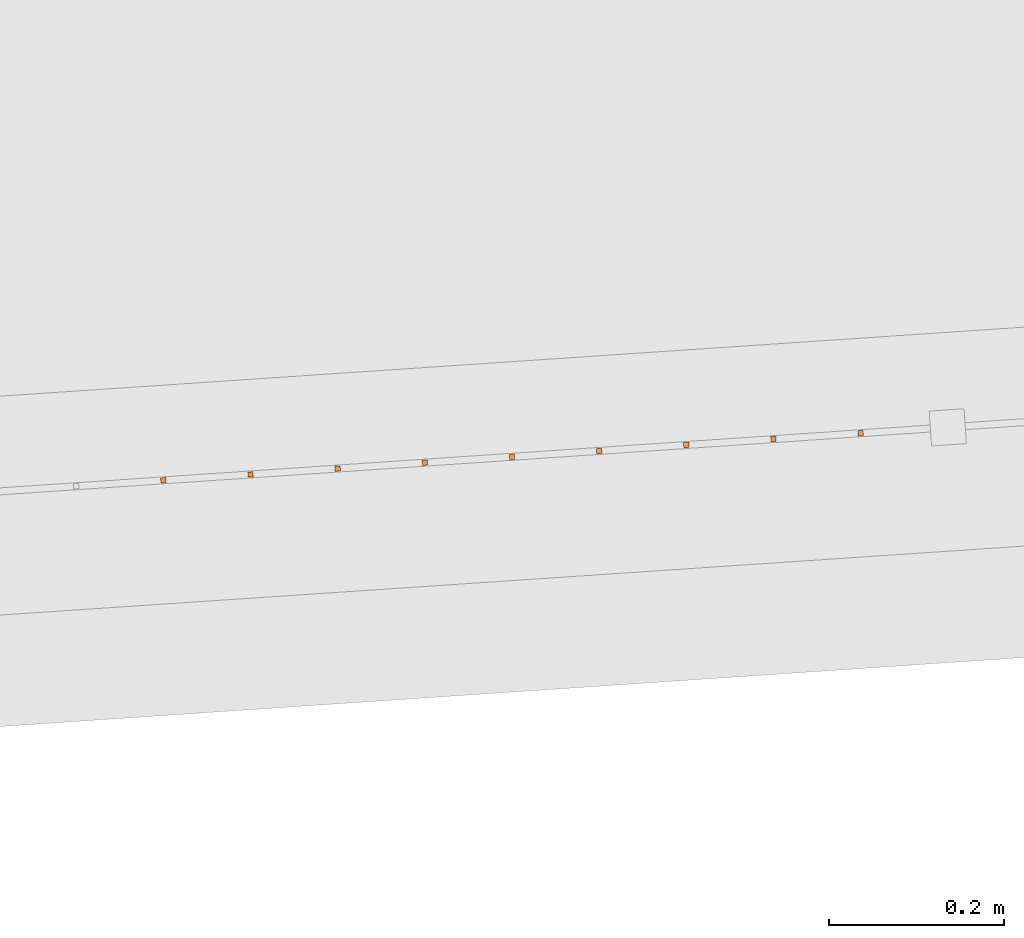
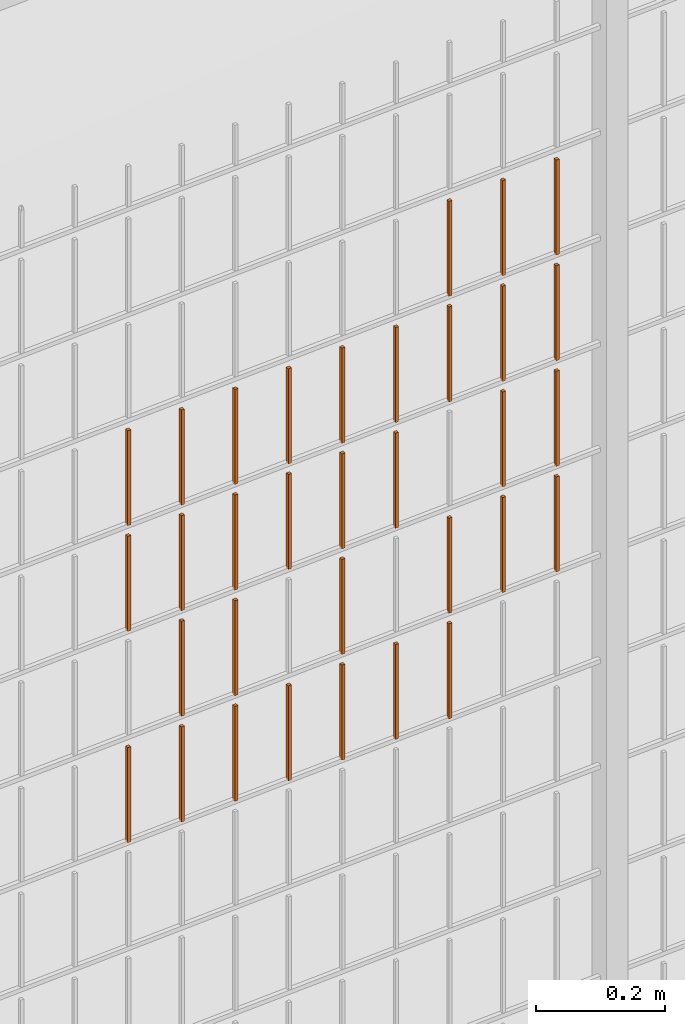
# One storey, part 275 of 1809: 33 proxies, 1 element without a shape of its own.
"""IFC2X3 building model written with IfcOpenShell, lengths in millimetres."""

from ifc_helpers import new_model, entity, si_unit, converted_unit, derived_unit, money_unit, direction, frame, origin_with_axes, place, context, subcontext, project, spatial, faceted_brep, source, transform, mapped, material, type_object, element, aggregate, save


model = new_model("IFC2X3")

# Units and contexts
model_context = context("Model", 3, precision=0.01, world=origin_with_axes(), true_north=direction((0.0, 1.0)))
body_context = subcontext(model_context, "Body", "Model", "MODEL_VIEW")
ifc_project = project(units=[si_unit("LENGTHUNIT", "METRE", prefix="MILLI"), si_unit("AREAUNIT", "SQUARE_METRE"), si_unit("VOLUMEUNIT", "CUBIC_METRE"), converted_unit("PLANEANGLEUNIT", "DEGREE", entity("IfcPlaneAngleMeasure", 0.0174532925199), si_unit("PLANEANGLEUNIT", "RADIAN"), dimensions=[0, 0, 0, 0, 0, 0, 0]), si_unit("SOLIDANGLEUNIT", "STERADIAN"), money_unit("EUR"), converted_unit("TIMEUNIT", "Year", entity("IfcTimeMeasure", 31556926.0), si_unit("TIMEUNIT", "SECOND"), dimensions=[0, 0, 1, 0, 0, 0, 0]), si_unit("MASSUNIT", "GRAM", prefix="KILO"), si_unit("THERMODYNAMICTEMPERATUREUNIT", "DEGREE_CELSIUS"), si_unit("LUMINOUSINTENSITYUNIT", "LUMEN"), si_unit("ENERGYUNIT", "JOULE", prefix="MEGA"), derived_unit("THERMALCONDUCTANCEUNIT", [(si_unit("POWERUNIT", "WATT"), 1), (si_unit("LENGTHUNIT", "METRE"), -1), (si_unit("THERMODYNAMICTEMPERATUREUNIT", "KELVIN"), -1)]), derived_unit("SPECIFICHEATCAPACITYUNIT", [(si_unit("ENERGYUNIT", "JOULE"), 1), (si_unit("MASSUNIT", "GRAM", prefix="KILO"), -1), (si_unit("THERMODYNAMICTEMPERATUREUNIT", "KELVIN"), -1)]), derived_unit("MASSDENSITYUNIT", [(si_unit("MASSUNIT", "GRAM", prefix="KILO"), 1), (si_unit("VOLUMEUNIT", "CUBIC_METRE"), -1)])], contexts=[model_context])

# Site, building, storey
site_placement = place(None, origin_with_axes())
site = spatial("IfcSite", under=ifc_project, at=site_placement, Name="Politse- ja Piirivalveameti ning Päästeameti ühishoone", CompositionType="ELEMENT")
building_placement = place(site_placement, origin_with_axes())
building = spatial("IfcBuilding", under=site, at=building_placement, Name="Politse- ja Piirivalveameti ning Päästeameti ühishoone", CompositionType="ELEMENT")
storey_placement = place(building_placement, origin_with_axes())
storey = spatial("IfcBuildingStorey", under=building, at=storey_placement, Name="Esimene korrus", CompositionType="ELEMENT", Elevation=0.0)

# Proxies
building_element_proxy_type_1 = type_object("IfcBuildingElementProxyType", Name="Railing Type", PredefinedType="NOTDEFINED")
proxy_1_placement = place(storey_placement, frame((89252.001212, -29183.4766571, 203.661247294), z_axis=(0.0, 0.0, 1.0), x_axis=(1.0, 0.0, 0.0)))
proxy_1 = element("IfcBuildingElementProxy", 1, at=proxy_1_placement, inside=storey, type_object=building_element_proxy_type_1, Name="PIIRDEAED")
ifc_material = material(Name="ET-03_Raud")
building_element_proxy_type_2 = type_object("IfcBuildingElementProxyType", Name="IfcBuildingElementProxy", PredefinedType="NOTDEFINED")
shared_shape_1 = source(origin_with_axes(), body_context, "Body", "Brep", [
    faceted_brep([(3.0, 3.0, -0.000752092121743), (-3.0, 3.0, -0.000752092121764), (-3.0, 3.0, 179.99926046), (3.0, 3.0, 179.99926046), (3.0, -3.0, 0.000752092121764), (-3.0, -3.0, 0.000752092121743), (-3.0, -3.0, 180.000764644), (3.0, -3.0, 180.000764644)], [[[0, 1, 2, 3]], [[0, 4, 5, 1]], [[1, 5, 6, 2]], [[3, 2, 6, 7]], [[4, 0, 3, 7]], [[5, 4, 7, 6]]]),
])
proxy_2_placement = place(proxy_1_placement, frame((-52606.8154385, -20851.1666135, 1414.0159433), z_axis=(0.0, 0.0, 1.0), x_axis=(1.0, 0.0, 0.0)))
proxy_2 = element("IfcBuildingElementProxy", 2, at=proxy_2_placement, type_object=building_element_proxy_type_2, material=ifc_material, Name="BALUSTER - 001", context=body_context, shape_type="MappedRepresentation", body=[
    mapped(shared_shape_1, transform((0.0, 0.0, 0.0), x_axis=(-0.0673926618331, 0.997726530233, 0.0), y_axis=(-0.997726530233, -0.0673926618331, 0.0), z_axis=(0.0, 0.0, 1.0))),
])
shared_shape_2 = source(origin_with_axes(), body_context, "Body", "Brep", [
    faceted_brep([(3.0, 3.0, -0.000752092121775), (-3.0, 3.0, -0.000752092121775), (-3.0, 3.0, 179.99926046), (3.0, 3.0, 179.99926046), (3.0, -3.0, 0.000752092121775), (-3.0, -3.0, 0.000752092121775), (-3.0, -3.0, 180.000764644), (3.0, -3.0, 180.000764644)], [[[0, 1, 2, 3]], [[0, 4, 5, 1]], [[1, 5, 6, 2]], [[3, 2, 6, 7]], [[4, 0, 3, 7]], [[5, 4, 7, 6]]]),
])
proxy_3_placement = place(proxy_1_placement, frame((-52307.4974794, -20830.948815, 1214.09115251), z_axis=(0.0, 0.0, 1.0), x_axis=(1.0, 0.0, 0.0)))
proxy_3 = element("IfcBuildingElementProxy", 3, at=proxy_3_placement, type_object=building_element_proxy_type_2, material=ifc_material, Name="BALUSTER - 001", context=body_context, shape_type="MappedRepresentation", body=[
    mapped(shared_shape_2, transform((0.0, 0.0, 0.0), x_axis=(-0.0673926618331, 0.997726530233, 0.0), y_axis=(-0.997726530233, -0.0673926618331, 0.0), z_axis=(0.0, 0.0, 1.0))),
])
shared_shape_3 = source(origin_with_axes(), body_context, "Body", "Brep", [
    faceted_brep([(3.0, 3.0, -0.000752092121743), (-3.0, 3.0, -0.000752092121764), (-3.0, 3.0, 179.99926046), (3.0, 3.0, 179.99926046), (3.0, -3.0, 0.000752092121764), (-3.0, -3.0, 0.000752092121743), (-3.0, -3.0, 180.000764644), (3.0, -3.0, 180.000764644)], [[[0, 1, 2, 3]], [[0, 4, 5, 1]], [[1, 5, 6, 2]], [[3, 2, 6, 7]], [[4, 0, 3, 7]], [[5, 4, 7, 6]]]),
])
proxy_4_placement = place(proxy_1_placement, frame((-52606.8154385, -20851.1666135, 1214.0159433), z_axis=(0.0, 0.0, 1.0), x_axis=(1.0, 0.0, 0.0)))
proxy_4 = element("IfcBuildingElementProxy", 4, at=proxy_4_placement, type_object=building_element_proxy_type_2, material=ifc_material, Name="BALUSTER - 001", context=body_context, shape_type="MappedRepresentation", body=[
    mapped(shared_shape_3, transform((0.0, 0.0, 0.0), x_axis=(-0.0673926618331, 0.997726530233, 0.0), y_axis=(-0.997726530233, -0.0673926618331, 0.0), z_axis=(0.0, 0.0, 1.0))),
])
shared_shape_4 = source(origin_with_axes(), body_context, "Body", "Brep", [
    faceted_brep([(3.0, 3.0, -0.000752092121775), (-3.0, 3.0, -0.000752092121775), (-3.0, 3.0, 179.99926046), (3.0, 3.0, 179.99926046), (3.0, -3.0, 0.000752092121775), (-3.0, -3.0, 0.000752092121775), (-3.0, -3.0, 180.000764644), (3.0, -3.0, 180.000764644)], [[[0, 1, 2, 3]], [[0, 4, 5, 1]], [[1, 5, 6, 2]], [[3, 2, 6, 7]], [[4, 0, 3, 7]], [[5, 4, 7, 6]]]),
])
proxy_5_placement = place(proxy_1_placement, frame((-52806.3607445, -20864.6451459, 813.965803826), z_axis=(0.0, 0.0, 1.0), x_axis=(1.0, 0.0, 0.0)))
proxy_5 = element("IfcBuildingElementProxy", 5, at=proxy_5_placement, type_object=building_element_proxy_type_2, material=ifc_material, Name="BALUSTER - 001", context=body_context, shape_type="MappedRepresentation", body=[
    mapped(shared_shape_4, transform((0.0, 0.0, 0.0), x_axis=(-0.0673926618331, 0.997726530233, 0.0), y_axis=(-0.997726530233, -0.0673926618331, 0.0), z_axis=(0.0, 0.0, 1.0))),
])
shared_shape_5 = source(origin_with_axes(), body_context, "Body", "Brep", [
    faceted_brep([(3.0, 3.0, -0.000752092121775), (-3.0, 3.0, -0.000752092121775), (-3.0, 3.0, 179.99926046), (3.0, 3.0, 179.99926046), (3.0, -3.0, 0.000752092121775), (-3.0, -3.0, 0.000752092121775), (-3.0, -3.0, 180.000764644), (3.0, -3.0, 180.000764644)], [[[0, 1, 2, 3]], [[0, 4, 5, 1]], [[1, 5, 6, 2]], [[3, 2, 6, 7]], [[4, 0, 3, 7]], [[5, 4, 7, 6]]]),
])
proxy_6_placement = place(proxy_1_placement, frame((-52307.4974794, -20830.948815, 1414.09115251), z_axis=(0.0, 0.0, 1.0), x_axis=(1.0, 0.0, 0.0)))
proxy_6 = element("IfcBuildingElementProxy", 6, at=proxy_6_placement, type_object=building_element_proxy_type_2, material=ifc_material, Name="BALUSTER - 001", context=body_context, shape_type="MappedRepresentation", body=[
    mapped(shared_shape_5, transform((0.0, 0.0, 0.0), x_axis=(-0.0673926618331, 0.997726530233, 0.0), y_axis=(-0.997726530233, -0.0673926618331, 0.0), z_axis=(0.0, 0.0, 1.0))),
])
proxy_7_placement = place(proxy_1_placement, frame((-52307.4974794, -20830.948815, 1614.09115251), z_axis=(0.0, 0.0, 1.0), x_axis=(1.0, 0.0, 0.0)))
proxy_7 = element("IfcBuildingElementProxy", 7, at=proxy_7_placement, type_object=building_element_proxy_type_2, material=ifc_material, Name="BALUSTER - 001", context=body_context, shape_type="MappedRepresentation", body=[
    mapped(shared_shape_5, transform((0.0, 0.0, 0.0), x_axis=(-0.0673926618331, 0.997726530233, 0.0), y_axis=(-0.997726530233, -0.0673926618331, 0.0), z_axis=(0.0, 0.0, 1.0))),
])
shared_shape_6 = source(origin_with_axes(), body_context, "Body", "Brep", [
    faceted_brep([(3.0, 3.0, -0.000752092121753), (-3.0, 3.0, -0.000752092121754), (-3.0, 3.0, 179.99926046), (3.0, 3.0, 179.99926046), (3.0, -3.0, 0.000752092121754), (-3.0, -3.0, 0.000752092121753), (-3.0, -3.0, 180.000764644), (3.0, -3.0, 180.000764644)], [[[0, 1, 2, 3]], [[0, 4, 5, 1]], [[1, 5, 6, 2]], [[3, 2, 6, 7]], [[4, 0, 3, 7]], [[5, 4, 7, 6]]]),
])
proxy_8_placement = place(proxy_1_placement, frame((-52706.5880915, -20857.9058797, 813.990873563), z_axis=(0.0, 0.0, 1.0), x_axis=(1.0, 0.0, 0.0)))
proxy_8 = element("IfcBuildingElementProxy", 8, at=proxy_8_placement, type_object=building_element_proxy_type_2, material=ifc_material, Name="BALUSTER - 001", context=body_context, shape_type="MappedRepresentation", body=[
    mapped(shared_shape_6, transform((0.0, 0.0, 0.0), x_axis=(-0.0673926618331, 0.997726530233, 0.0), y_axis=(-0.997726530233, -0.0673926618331, 0.0), z_axis=(0.0, 0.0, 1.0))),
])
shared_shape_7 = source(origin_with_axes(), body_context, "Body", "Brep", [
    faceted_brep([(3.0, 3.0, -0.000752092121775), (-3.0, 3.0, -0.000752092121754), (-3.0, 3.0, 179.99926046), (3.0, 3.0, 179.99926046), (3.0, -3.0, 0.000752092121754), (-3.0, -3.0, 0.000752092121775), (-3.0, -3.0, 180.000764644), (3.0, -3.0, 180.000764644)], [[[0, 1, 2, 3]], [[0, 4, 5, 1]], [[1, 5, 6, 2]], [[3, 2, 6, 7]], [[4, 0, 3, 7]], [[5, 4, 7, 6]]]),
])
proxy_9_placement = place(proxy_1_placement, frame((-52906.1333975, -20871.3844121, 813.940734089), z_axis=(0.0, 0.0, 1.0), x_axis=(1.0, 0.0, 0.0)))
proxy_9 = element("IfcBuildingElementProxy", 9, at=proxy_9_placement, type_object=building_element_proxy_type_2, material=ifc_material, Name="BALUSTER - 001", context=body_context, shape_type="MappedRepresentation", body=[
    mapped(shared_shape_7, transform((0.0, 0.0, 0.0), x_axis=(-0.0673926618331, 0.997726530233, 0.0), y_axis=(-0.997726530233, -0.0673926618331, 0.0), z_axis=(0.0, 0.0, 1.0))),
])
proxy_10_placement = place(proxy_1_placement, frame((-52906.1333975, -20871.3844121, 1213.94073409), z_axis=(0.0, 0.0, 1.0), x_axis=(1.0, 0.0, 0.0)))
proxy_10 = element("IfcBuildingElementProxy", 10, at=proxy_10_placement, type_object=building_element_proxy_type_2, material=ifc_material, Name="BALUSTER - 001", context=body_context, shape_type="MappedRepresentation", body=[
    mapped(shared_shape_7, transform((0.0, 0.0, 0.0), x_axis=(-0.0673926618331, 0.997726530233, 0.0), y_axis=(-0.997726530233, -0.0673926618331, 0.0), z_axis=(0.0, 0.0, 1.0))),
])
shared_shape_8 = source(origin_with_axes(), body_context, "Body", "Brep", [
    faceted_brep([(3.0, 3.0, -0.000752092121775), (-3.0, 3.0, -0.000752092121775), (-3.0, 3.0, 179.99926046), (3.0, 3.0, 179.99926046), (3.0, -3.0, 0.000752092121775), (-3.0, -3.0, 0.000752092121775), (-3.0, -3.0, 180.000764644), (3.0, -3.0, 180.000764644)], [[[0, 1, 2, 3]], [[0, 4, 5, 1]], [[1, 5, 6, 2]], [[3, 2, 6, 7]], [[4, 0, 3, 7]], [[5, 4, 7, 6]]]),
])
proxy_11_placement = place(proxy_1_placement, frame((-52507.0427854, -20844.4273473, 814.041013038), z_axis=(0.0, 0.0, 1.0), x_axis=(1.0, 0.0, 0.0)))
proxy_11 = element("IfcBuildingElementProxy", 11, at=proxy_11_placement, type_object=building_element_proxy_type_2, material=ifc_material, Name="BALUSTER - 001", context=body_context, shape_type="MappedRepresentation", body=[
    mapped(shared_shape_8, transform((0.0, 0.0, 0.0), x_axis=(-0.0673926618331, 0.997726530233, 0.0), y_axis=(-0.997726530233, -0.0673926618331, 0.0), z_axis=(0.0, 0.0, 1.0))),
])
proxy_12_placement = place(proxy_1_placement, frame((-52706.5880915, -20857.9058797, 1213.99087356), z_axis=(0.0, 0.0, 1.0), x_axis=(1.0, 0.0, 0.0)))
proxy_12 = element("IfcBuildingElementProxy", 12, at=proxy_12_placement, type_object=building_element_proxy_type_2, material=ifc_material, Name="BALUSTER - 001", context=body_context, shape_type="MappedRepresentation", body=[
    mapped(shared_shape_8, transform((0.0, 0.0, 0.0), x_axis=(-0.0673926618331, 0.997726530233, 0.0), y_axis=(-0.997726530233, -0.0673926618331, 0.0), z_axis=(0.0, 0.0, 1.0))),
])
shared_shape_9 = source(origin_with_axes(), body_context, "Body", "Brep", [
    faceted_brep([(3.0, 3.0, -0.000752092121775), (-3.0, 3.0, -0.000752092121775), (-3.0, 3.0, 179.99926046), (3.0, 3.0, 179.99926046), (3.0, -3.0, 0.000752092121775), (-3.0, -3.0, 0.000752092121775), (-3.0, -3.0, 180.000764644), (3.0, -3.0, 180.000764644)], [[[0, 1, 2, 3]], [[0, 4, 5, 1]], [[1, 5, 6, 2]], [[3, 2, 6, 7]], [[4, 0, 3, 7]], [[5, 4, 7, 6]]]),
])
proxy_13_placement = place(proxy_1_placement, frame((-52706.5880915, -20857.9058797, 1413.99087356), z_axis=(0.0, 0.0, 1.0), x_axis=(1.0, 0.0, 0.0)))
proxy_13 = element("IfcBuildingElementProxy", 13, at=proxy_13_placement, type_object=building_element_proxy_type_2, material=ifc_material, Name="BALUSTER - 001", context=body_context, shape_type="MappedRepresentation", body=[
    mapped(shared_shape_9, transform((0.0, 0.0, 0.0), x_axis=(-0.0673926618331, 0.997726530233, 0.0), y_axis=(-0.997726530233, -0.0673926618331, 0.0), z_axis=(0.0, 0.0, 1.0))),
])
shared_shape_10 = source(origin_with_axes(), body_context, "Body", "Brep", [
    faceted_brep([(3.0, 3.0, -0.000752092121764), (-3.0, 3.0, -0.000752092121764), (-3.0, 3.0, 179.99926046), (3.0, 3.0, 179.99926046), (3.0, -3.0, 0.000752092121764), (-3.0, -3.0, 0.000752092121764), (-3.0, -3.0, 180.000764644), (3.0, -3.0, 180.000764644)], [[[0, 1, 2, 3]], [[0, 4, 5, 1]], [[1, 5, 6, 2]], [[3, 2, 6, 7]], [[4, 0, 3, 7]], [[5, 4, 7, 6]]]),
])
proxy_14_placement = place(proxy_1_placement, frame((-53005.9060506, -20878.1236782, 813.915664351), z_axis=(0.0, 0.0, 1.0), x_axis=(1.0, 0.0, 0.0)))
proxy_14 = element("IfcBuildingElementProxy", 14, at=proxy_14_placement, type_object=building_element_proxy_type_2, material=ifc_material, Name="BALUSTER - 001", context=body_context, shape_type="MappedRepresentation", body=[
    mapped(shared_shape_10, transform((0.0, 0.0, 0.0), x_axis=(-0.0673926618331, 0.997726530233, 0.0), y_axis=(-0.997726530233, -0.0673926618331, 0.0), z_axis=(0.0, 0.0, 1.0))),
])
shared_shape_11 = source(origin_with_axes(), body_context, "Body", "Brep", [
    faceted_brep([(3.0, 3.0, -0.000752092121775), (-3.0, 3.0, -0.000752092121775), (-3.0, 3.0, 179.99926046), (3.0, 3.0, 179.99926046), (3.0, -3.0, 0.000752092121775), (-3.0, -3.0, 0.000752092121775), (-3.0, -3.0, 180.000764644), (3.0, -3.0, 180.000764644)], [[[0, 1, 2, 3]], [[0, 4, 5, 1]], [[1, 5, 6, 2]], [[3, 2, 6, 7]], [[4, 0, 3, 7]], [[5, 4, 7, 6]]]),
])
proxy_15_placement = place(proxy_1_placement, frame((-52606.8154385, -20851.1666135, 814.015943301), z_axis=(0.0, 0.0, 1.0), x_axis=(1.0, 0.0, 0.0)))
proxy_15 = element("IfcBuildingElementProxy", 15, at=proxy_15_placement, type_object=building_element_proxy_type_2, material=ifc_material, Name="BALUSTER - 001", context=body_context, shape_type="MappedRepresentation", body=[
    mapped(shared_shape_11, transform((0.0, 0.0, 0.0), x_axis=(-0.0673926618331, 0.997726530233, 0.0), y_axis=(-0.997726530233, -0.0673926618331, 0.0), z_axis=(0.0, 0.0, 1.0))),
])
shared_shape_12 = source(origin_with_axes(), body_context, "Body", "Brep", [
    faceted_brep([(3.0, 3.0, -0.000752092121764), (-3.0, 3.0, -0.000752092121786), (-3.0, 3.0, 179.99926046), (3.0, 3.0, 179.99926046), (3.0, -3.0, 0.000752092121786), (-3.0, -3.0, 0.000752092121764), (-3.0, -3.0, 180.000764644), (3.0, -3.0, 180.000764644)], [[[0, 1, 2, 3]], [[0, 4, 5, 1]], [[1, 5, 6, 2]], [[3, 2, 6, 7]], [[4, 0, 3, 7]], [[5, 4, 7, 6]]]),
])
proxy_16_placement = place(proxy_1_placement, frame((-52407.2701324, -20837.6880811, 1214.06608278), z_axis=(0.0, 0.0, 1.0), x_axis=(1.0, 0.0, 0.0)))
proxy_16 = element("IfcBuildingElementProxy", 16, at=proxy_16_placement, type_object=building_element_proxy_type_2, material=ifc_material, Name="BALUSTER - 001", context=body_context, shape_type="MappedRepresentation", body=[
    mapped(shared_shape_12, transform((0.0, 0.0, 0.0), x_axis=(-0.0673926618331, 0.997726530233, 0.0), y_axis=(-0.997726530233, -0.0673926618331, 0.0), z_axis=(0.0, 0.0, 1.0))),
])
shared_shape_13 = source(origin_with_axes(), body_context, "Body", "Brep", [
    faceted_brep([(3.0, 3.0, -0.000752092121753), (-3.0, 3.0, -0.000752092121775), (-3.0, 3.0, 179.99926046), (3.0, 3.0, 179.99926046), (3.0, -3.0, 0.000752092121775), (-3.0, -3.0, 0.000752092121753), (-3.0, -3.0, 180.000764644), (3.0, -3.0, 180.000764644)], [[[0, 1, 2, 3]], [[0, 4, 5, 1]], [[1, 5, 6, 2]], [[3, 2, 6, 7]], [[4, 0, 3, 7]], [[5, 4, 7, 6]]]),
])
proxy_17_placement = place(proxy_1_placement, frame((-53105.6787036, -20884.8629444, 813.890594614), z_axis=(0.0, 0.0, 1.0), x_axis=(1.0, 0.0, 0.0)))
proxy_17 = element("IfcBuildingElementProxy", 17, at=proxy_17_placement, type_object=building_element_proxy_type_2, material=ifc_material, Name="BALUSTER - 001", context=body_context, shape_type="MappedRepresentation", body=[
    mapped(shared_shape_13, transform((0.0, 0.0, 0.0), x_axis=(-0.0673926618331, 0.997726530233, 0.0), y_axis=(-0.997726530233, -0.0673926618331, 0.0), z_axis=(0.0, 0.0, 1.0))),
])
shared_shape_14 = source(origin_with_axes(), body_context, "Body", "Brep", [
    faceted_brep([(3.0, 3.0, -0.000752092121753), (-3.0, 3.0, -0.000752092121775), (-3.0, 3.0, 179.99926046), (3.0, 3.0, 179.99926046), (3.0, -3.0, 0.000752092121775), (-3.0, -3.0, 0.000752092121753), (-3.0, -3.0, 180.000764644), (3.0, -3.0, 180.000764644)], [[[0, 1, 2, 3]], [[0, 4, 5, 1]], [[1, 5, 6, 2]], [[3, 2, 6, 7]], [[4, 0, 3, 7]], [[5, 4, 7, 6]]]),
])
proxy_18_placement = place(proxy_1_placement, frame((-53005.9060506, -20878.1236782, 1213.91566435), z_axis=(0.0, 0.0, 1.0), x_axis=(1.0, 0.0, 0.0)))
proxy_18 = element("IfcBuildingElementProxy", 18, at=proxy_18_placement, type_object=building_element_proxy_type_2, material=ifc_material, Name="BALUSTER - 001", context=body_context, shape_type="MappedRepresentation", body=[
    mapped(shared_shape_14, transform((0.0, 0.0, 0.0), x_axis=(-0.0673926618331, 0.997726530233, 0.0), y_axis=(-0.997726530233, -0.0673926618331, 0.0), z_axis=(0.0, 0.0, 1.0))),
])
shared_shape_15 = source(origin_with_axes(), body_context, "Body", "Brep", [
    faceted_brep([(3.0, 3.0, -0.000752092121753), (-3.0, 3.0, -0.000752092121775), (-3.0, 3.0, 179.99926046), (3.0, 3.0, 179.99926046), (3.0, -3.0, 0.000752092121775), (-3.0, -3.0, 0.000752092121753), (-3.0, -3.0, 180.000764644), (3.0, -3.0, 180.000764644)], [[[0, 1, 2, 3]], [[0, 4, 5, 1]], [[1, 5, 6, 2]], [[3, 2, 6, 7]], [[4, 0, 3, 7]], [[5, 4, 7, 6]]]),
])
proxy_19_placement = place(proxy_1_placement, frame((-53105.6787036, -20884.8629444, 1213.89059461), z_axis=(0.0, 0.0, 1.0), x_axis=(1.0, 0.0, 0.0)))
proxy_19 = element("IfcBuildingElementProxy", 19, at=proxy_19_placement, type_object=building_element_proxy_type_2, material=ifc_material, Name="BALUSTER - 001", context=body_context, shape_type="MappedRepresentation", body=[
    mapped(shared_shape_15, transform((0.0, 0.0, 0.0), x_axis=(-0.0673926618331, 0.997726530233, 0.0), y_axis=(-0.997726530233, -0.0673926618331, 0.0), z_axis=(0.0, 0.0, 1.0))),
])
shared_shape_16 = source(origin_with_axes(), body_context, "Body", "Brep", [
    faceted_brep([(3.0, 3.0, -0.000752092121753), (-3.0, 3.0, -0.000752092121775), (-3.0, 3.0, 179.99926046), (3.0, 3.0, 179.99926046), (3.0, -3.0, 0.000752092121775), (-3.0, -3.0, 0.000752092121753), (-3.0, -3.0, 180.000764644), (3.0, -3.0, 180.000764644)], [[[0, 1, 2, 3]], [[0, 4, 5, 1]], [[1, 5, 6, 2]], [[3, 2, 6, 7]], [[4, 0, 3, 7]], [[5, 4, 7, 6]]]),
])
proxy_20_placement = place(proxy_1_placement, frame((-53005.9060506, -20878.1236782, 1413.91566435), z_axis=(0.0, 0.0, 1.0), x_axis=(1.0, 0.0, 0.0)))
proxy_20 = element("IfcBuildingElementProxy", 20, at=proxy_20_placement, type_object=building_element_proxy_type_2, material=ifc_material, Name="BALUSTER - 001", context=body_context, shape_type="MappedRepresentation", body=[
    mapped(shared_shape_16, transform((0.0, 0.0, 0.0), x_axis=(-0.0673926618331, 0.997726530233, 0.0), y_axis=(-0.997726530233, -0.0673926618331, 0.0), z_axis=(0.0, 0.0, 1.0))),
])
shared_shape_17 = source(origin_with_axes(), body_context, "Body", "Brep", [
    faceted_brep([(3.0, 3.0, -0.000752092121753), (-3.0, 3.0, -0.000752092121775), (-3.0, 3.0, 179.99926046), (3.0, 3.0, 179.99926046), (3.0, -3.0, 0.000752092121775), (-3.0, -3.0, 0.000752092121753), (-3.0, -3.0, 180.000764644), (3.0, -3.0, 180.000764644)], [[[0, 1, 2, 3]], [[0, 4, 5, 1]], [[1, 5, 6, 2]], [[3, 2, 6, 7]], [[4, 0, 3, 7]], [[5, 4, 7, 6]]]),
])
proxy_21_placement = place(proxy_1_placement, frame((-53105.6787036, -20884.8629444, 1413.89059461), z_axis=(0.0, 0.0, 1.0), x_axis=(1.0, 0.0, 0.0)))
proxy_21 = element("IfcBuildingElementProxy", 21, at=proxy_21_placement, type_object=building_element_proxy_type_2, material=ifc_material, Name="BALUSTER - 001", context=body_context, shape_type="MappedRepresentation", body=[
    mapped(shared_shape_17, transform((0.0, 0.0, 0.0), x_axis=(-0.0673926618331, 0.997726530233, 0.0), y_axis=(-0.997726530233, -0.0673926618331, 0.0), z_axis=(0.0, 0.0, 1.0))),
])
shared_shape_18 = source(origin_with_axes(), body_context, "Body", "Brep", [
    faceted_brep([(3.0, 3.0, -0.000752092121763), (-3.0, 3.0, -0.000752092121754), (-3.00000000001, 2.99999999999, 179.99926046), (2.99999999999, 2.99999999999, 179.99926046), (3.0, -3.0, 0.000752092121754), (-3.0, -3.0, 0.000752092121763), (-3.00000000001, -3.00000000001, 180.000764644), (2.99999999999, -3.00000000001, 180.000764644)], [[[0, 1, 2, 3]], [[0, 4, 5, 1]], [[1, 5, 6, 2]], [[3, 2, 6, 7]], [[4, 0, 3, 7]], [[5, 4, 7, 6]]]),
])
proxy_22_placement = place(proxy_1_placement, frame((-52407.2701324, -20837.6880811, 1014.06608278), z_axis=(0.0, 0.0, 1.0), x_axis=(1.0, 0.0, 0.0)))
proxy_22 = element("IfcBuildingElementProxy", 22, at=proxy_22_placement, type_object=building_element_proxy_type_2, material=ifc_material, Name="BALUSTER - 001", context=body_context, shape_type="MappedRepresentation", body=[
    mapped(shared_shape_18, transform((0.0, 0.0, 0.0), x_axis=(-0.0673926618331, 0.997726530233, 0.0), y_axis=(-0.997726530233, -0.0673926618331, 0.0), z_axis=(0.0, 0.0, 1.0))),
])
shared_shape_19 = source(origin_with_axes(), body_context, "Body", "Brep", [
    faceted_brep([(3.0, 3.0, -0.000752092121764), (-3.0, 3.0, -0.000752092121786), (-3.0, 3.0, 179.99926046), (3.0, 3.0, 179.99926046), (3.0, -3.0, 0.000752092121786), (-3.0, -3.0, 0.000752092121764), (-3.0, -3.0, 180.000764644), (3.0, -3.0, 180.000764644)], [[[0, 1, 2, 3]], [[0, 4, 5, 1]], [[1, 5, 6, 2]], [[3, 2, 6, 7]], [[4, 0, 3, 7]], [[5, 4, 7, 6]]]),
])
proxy_23_placement = place(proxy_1_placement, frame((-52407.2701324, -20837.6880811, 1414.06608278), z_axis=(0.0, 0.0, 1.0), x_axis=(1.0, 0.0, 0.0)))
proxy_23 = element("IfcBuildingElementProxy", 23, at=proxy_23_placement, type_object=building_element_proxy_type_2, material=ifc_material, Name="BALUSTER - 001", context=body_context, shape_type="MappedRepresentation", body=[
    mapped(shared_shape_19, transform((0.0, 0.0, 0.0), x_axis=(-0.0673926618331, 0.997726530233, 0.0), y_axis=(-0.997726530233, -0.0673926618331, 0.0), z_axis=(0.0, 0.0, 1.0))),
])
proxy_24_placement = place(proxy_1_placement, frame((-52407.2701324, -20837.6880811, 1614.06608278), z_axis=(0.0, 0.0, 1.0), x_axis=(1.0, 0.0, 0.0)))
proxy_24 = element("IfcBuildingElementProxy", 24, at=proxy_24_placement, type_object=building_element_proxy_type_2, material=ifc_material, Name="BALUSTER - 001", context=body_context, shape_type="MappedRepresentation", body=[
    mapped(shared_shape_19, transform((0.0, 0.0, 0.0), x_axis=(-0.0673926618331, 0.997726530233, 0.0), y_axis=(-0.997726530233, -0.0673926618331, 0.0), z_axis=(0.0, 0.0, 1.0))),
])
shared_shape_20 = source(origin_with_axes(), body_context, "Body", "Brep", [
    faceted_brep([(3.0, 3.0, -0.000752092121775), (-3.0, 3.0, -0.000752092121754), (-3.0, 3.0, 179.99926046), (3.0, 3.0, 179.99926046), (3.0, -3.0, 0.000752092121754), (-3.0, -3.0, 0.000752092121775), (-3.0, -3.0, 180.000764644), (3.0, -3.0, 180.000764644)], [[[0, 1, 2, 3]], [[0, 4, 5, 1]], [[1, 5, 6, 2]], [[3, 2, 6, 7]], [[4, 0, 3, 7]], [[5, 4, 7, 6]]]),
])
proxy_25_placement = place(proxy_1_placement, frame((-52906.1333975, -20871.3844121, 1413.94073409), z_axis=(0.0, 0.0, 1.0), x_axis=(1.0, 0.0, 0.0)))
proxy_25 = element("IfcBuildingElementProxy", 25, at=proxy_25_placement, type_object=building_element_proxy_type_2, material=ifc_material, Name="BALUSTER - 001", context=body_context, shape_type="MappedRepresentation", body=[
    mapped(shared_shape_20, transform((0.0, 0.0, 0.0), x_axis=(-0.0673926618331, 0.997726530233, 0.0), y_axis=(-0.997726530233, -0.0673926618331, 0.0), z_axis=(0.0, 0.0, 1.0))),
])
shared_shape_21 = source(origin_with_axes(), body_context, "Body", "Brep", [
    faceted_brep([(3.0, 3.0, -0.000752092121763), (-3.0, 3.0, -0.000752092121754), (-3.00000000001, 2.99999999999, 179.99926046), (2.99999999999, 2.99999999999, 179.99926046), (3.0, -3.0, 0.000752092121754), (-3.0, -3.0, 0.000752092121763), (-3.00000000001, -3.00000000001, 180.000764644), (2.99999999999, -3.00000000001, 180.000764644)], [[[0, 1, 2, 3]], [[0, 4, 5, 1]], [[1, 5, 6, 2]], [[3, 2, 6, 7]], [[4, 0, 3, 7]], [[5, 4, 7, 6]]]),
])
proxy_26_placement = place(proxy_1_placement, frame((-53005.9060506, -20878.1236782, 1013.91566435), z_axis=(0.0, 0.0, 1.0), x_axis=(1.0, 0.0, 0.0)))
proxy_26 = element("IfcBuildingElementProxy", 26, at=proxy_26_placement, type_object=building_element_proxy_type_2, material=ifc_material, Name="BALUSTER - 001", context=body_context, shape_type="MappedRepresentation", body=[
    mapped(shared_shape_21, transform((0.0, 0.0, 0.0), x_axis=(-0.0673926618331, 0.997726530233, 0.0), y_axis=(-0.997726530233, -0.0673926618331, 0.0), z_axis=(0.0, 0.0, 1.0))),
])
shared_shape_22 = source(origin_with_axes(), body_context, "Body", "Brep", [
    faceted_brep([(3.0, 3.0, -0.000752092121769), (-3.0, 3.0, -0.00075209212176), (-3.00000000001, 3.0, 179.99926046), (2.99999999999, 3.0, 179.99926046), (3.0, -3.0, 0.00075209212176), (-3.0, -3.0, 0.000752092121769), (-3.00000000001, -3.0, 180.000764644), (2.99999999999, -3.0, 180.000764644)], [[[0, 1, 2, 3]], [[0, 4, 5, 1]], [[1, 5, 6, 2]], [[3, 2, 6, 7]], [[4, 0, 3, 7]], [[5, 4, 7, 6]]]),
])
proxy_27_placement = place(proxy_1_placement, frame((-52906.1333975, -20871.3844121, 1013.94073409), z_axis=(0.0, 0.0, 1.0), x_axis=(1.0, 0.0, 0.0)))
proxy_27 = element("IfcBuildingElementProxy", 27, at=proxy_27_placement, type_object=building_element_proxy_type_2, material=ifc_material, Name="BALUSTER - 001", context=body_context, shape_type="MappedRepresentation", body=[
    mapped(shared_shape_22, transform((0.0, 0.0, 0.0), x_axis=(-0.0673926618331, 0.997726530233, 0.0), y_axis=(-0.997726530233, -0.0673926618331, 0.0), z_axis=(0.0, 0.0, 1.0))),
])
shared_shape_23 = source(origin_with_axes(), body_context, "Body", "Brep", [
    faceted_brep([(3.0, 3.0, -0.000752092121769), (-3.0, 3.0, -0.00075209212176), (-3.00000000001, 3.0, 179.99926046), (2.99999999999, 3.0, 179.99926046), (3.0, -3.0, 0.00075209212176), (-3.0, -3.0, 0.000752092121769), (-3.00000000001, -3.0, 180.000764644), (2.99999999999, -3.0, 180.000764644)], [[[0, 1, 2, 3]], [[0, 4, 5, 1]], [[1, 5, 6, 2]], [[3, 2, 6, 7]], [[4, 0, 3, 7]], [[5, 4, 7, 6]]]),
])
proxy_28_placement = place(proxy_1_placement, frame((-52507.0427854, -20844.4273473, 1014.04101304), z_axis=(0.0, 0.0, 1.0), x_axis=(1.0, 0.0, 0.0)))
proxy_28 = element("IfcBuildingElementProxy", 28, at=proxy_28_placement, type_object=building_element_proxy_type_2, material=ifc_material, Name="BALUSTER - 001", context=body_context, shape_type="MappedRepresentation", body=[
    mapped(shared_shape_23, transform((0.0, 0.0, 0.0), x_axis=(-0.0673926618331, 0.997726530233, 0.0), y_axis=(-0.997726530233, -0.0673926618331, 0.0), z_axis=(0.0, 0.0, 1.0))),
])
shared_shape_24 = source(origin_with_axes(), body_context, "Body", "Brep", [
    faceted_brep([(3.0, 3.0, -0.000752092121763), (-3.0, 3.0, -0.000752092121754), (-3.00000000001, 2.99999999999, 179.99926046), (2.99999999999, 2.99999999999, 179.99926046), (3.0, -3.0, 0.000752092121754), (-3.0, -3.0, 0.000752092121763), (-3.00000000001, -3.00000000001, 180.000764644), (2.99999999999, -3.00000000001, 180.000764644)], [[[0, 1, 2, 3]], [[0, 4, 5, 1]], [[1, 5, 6, 2]], [[3, 2, 6, 7]], [[4, 0, 3, 7]], [[5, 4, 7, 6]]]),
])
proxy_29_placement = place(proxy_1_placement, frame((-52706.5880915, -20857.9058797, 1013.99087356), z_axis=(0.0, 0.0, 1.0), x_axis=(1.0, 0.0, 0.0)))
proxy_29 = element("IfcBuildingElementProxy", 29, at=proxy_29_placement, type_object=building_element_proxy_type_2, material=ifc_material, Name="BALUSTER - 001", context=body_context, shape_type="MappedRepresentation", body=[
    mapped(shared_shape_24, transform((0.0, 0.0, 0.0), x_axis=(-0.0673926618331, 0.997726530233, 0.0), y_axis=(-0.997726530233, -0.0673926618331, 0.0), z_axis=(0.0, 0.0, 1.0))),
])
shared_shape_25 = source(origin_with_axes(), body_context, "Body", "Brep", [
    faceted_brep([(3.0, 3.0, -0.000752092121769), (-3.0, 3.0, -0.00075209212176), (-3.00000000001, 3.0, 179.99926046), (2.99999999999, 3.0, 179.99926046), (3.0, -3.0, 0.00075209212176), (-3.0, -3.0, 0.000752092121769), (-3.00000000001, -3.0, 180.000764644), (2.99999999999, -3.0, 180.000764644)], [[[0, 1, 2, 3]], [[0, 4, 5, 1]], [[1, 5, 6, 2]], [[3, 2, 6, 7]], [[4, 0, 3, 7]], [[5, 4, 7, 6]]]),
])
proxy_30_placement = place(proxy_1_placement, frame((-52307.4974794, -20830.948815, 1014.09115251), z_axis=(0.0, 0.0, 1.0), x_axis=(1.0, 0.0, 0.0)))
proxy_30 = element("IfcBuildingElementProxy", 30, at=proxy_30_placement, type_object=building_element_proxy_type_2, material=ifc_material, Name="BALUSTER - 001", context=body_context, shape_type="MappedRepresentation", body=[
    mapped(shared_shape_25, transform((0.0, 0.0, 0.0), x_axis=(-0.0673926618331, 0.997726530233, 0.0), y_axis=(-0.997726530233, -0.0673926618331, 0.0), z_axis=(0.0, 0.0, 1.0))),
])
shared_shape_26 = source(origin_with_axes(), body_context, "Body", "Brep", [
    faceted_brep([(3.0, 3.0, -0.000752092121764), (-3.0, 3.0, -0.000752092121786), (-3.0, 3.0, 179.99926046), (3.0, 3.0, 179.99926046), (3.0, -3.0, 0.000752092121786), (-3.0, -3.0, 0.000752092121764), (-3.0, -3.0, 180.000764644), (3.0, -3.0, 180.000764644)], [[[0, 1, 2, 3]], [[0, 4, 5, 1]], [[1, 5, 6, 2]], [[3, 2, 6, 7]], [[4, 0, 3, 7]], [[5, 4, 7, 6]]]),
])
proxy_31_placement = place(proxy_1_placement, frame((-52806.3607445, -20864.6451459, 1213.96580383), z_axis=(0.0, 0.0, 1.0), x_axis=(1.0, 0.0, 0.0)))
proxy_31 = element("IfcBuildingElementProxy", 31, at=proxy_31_placement, type_object=building_element_proxy_type_2, material=ifc_material, Name="BALUSTER - 001", context=body_context, shape_type="MappedRepresentation", body=[
    mapped(shared_shape_26, transform((0.0, 0.0, 0.0), x_axis=(-0.0673926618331, 0.997726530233, 0.0), y_axis=(-0.997726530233, -0.0673926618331, 0.0), z_axis=(0.0, 0.0, 1.0))),
])
shared_shape_27 = source(origin_with_axes(), body_context, "Body", "Brep", [
    faceted_brep([(3.0, 3.0, -0.000752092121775), (-3.0, 3.0, -0.000752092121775), (-3.0, 3.0, 179.99926046), (3.0, 3.0, 179.99926046), (3.0, -3.0, 0.000752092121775), (-3.0, -3.0, 0.000752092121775), (-3.0, -3.0, 180.000764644), (3.0, -3.0, 180.000764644)], [[[0, 1, 2, 3]], [[0, 4, 5, 1]], [[1, 5, 6, 2]], [[3, 2, 6, 7]], [[4, 0, 3, 7]], [[5, 4, 7, 6]]]),
])
proxy_32_placement = place(proxy_1_placement, frame((-52507.0427854, -20844.4273473, 1414.04101304), z_axis=(0.0, 0.0, 1.0), x_axis=(1.0, 0.0, 0.0)))
proxy_32 = element("IfcBuildingElementProxy", 32, at=proxy_32_placement, type_object=building_element_proxy_type_2, material=ifc_material, Name="BALUSTER - 001", context=body_context, shape_type="MappedRepresentation", body=[
    mapped(shared_shape_27, transform((0.0, 0.0, 0.0), x_axis=(-0.0673926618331, 0.997726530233, 0.0), y_axis=(-0.997726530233, -0.0673926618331, 0.0), z_axis=(0.0, 0.0, 1.0))),
])
proxy_33_placement = place(proxy_1_placement, frame((-52507.0427854, -20844.4273473, 1614.04101304), z_axis=(0.0, 0.0, 1.0), x_axis=(1.0, 0.0, 0.0)))
proxy_33 = element("IfcBuildingElementProxy", 33, at=proxy_33_placement, type_object=building_element_proxy_type_2, material=ifc_material, Name="BALUSTER - 001", context=body_context, shape_type="MappedRepresentation", body=[
    mapped(shared_shape_27, transform((0.0, 0.0, 0.0), x_axis=(-0.0673926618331, 0.997726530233, 0.0), y_axis=(-0.997726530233, -0.0673926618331, 0.0), z_axis=(0.0, 0.0, 1.0))),
])
shared_shape_28 = source(origin_with_axes(), body_context, "Body", "Brep", [
    faceted_brep([(3.0, 3.0, -0.000752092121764), (-3.0, 3.0, -0.000752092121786), (-3.0, 3.0, 179.99926046), (3.0, 3.0, 179.99926046), (3.0, -3.0, 0.000752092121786), (-3.0, -3.0, 0.000752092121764), (-3.0, -3.0, 180.000764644), (3.0, -3.0, 180.000764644)], [[[0, 1, 2, 3]], [[0, 4, 5, 1]], [[1, 5, 6, 2]], [[3, 2, 6, 7]], [[4, 0, 3, 7]], [[5, 4, 7, 6]]]),
])
proxy_34_placement = place(proxy_1_placement, frame((-52806.3607445, -20864.6451459, 1413.96580383), z_axis=(0.0, 0.0, 1.0), x_axis=(1.0, 0.0, 0.0)))
proxy_34 = element("IfcBuildingElementProxy", 34, at=proxy_34_placement, type_object=building_element_proxy_type_2, material=ifc_material, Name="BALUSTER - 001", context=body_context, shape_type="MappedRepresentation", body=[
    mapped(shared_shape_28, transform((0.0, 0.0, 0.0), x_axis=(-0.0673926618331, 0.997726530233, 0.0), y_axis=(-0.997726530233, -0.0673926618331, 0.0), z_axis=(0.0, 0.0, 1.0))),
])
aggregate(proxy_1, [proxy_11, proxy_15, proxy_8, proxy_5, proxy_9, proxy_14, proxy_17, proxy_30, proxy_22, proxy_28, proxy_29, proxy_27, proxy_26, proxy_3, proxy_16, proxy_4, proxy_12, proxy_31, proxy_10, proxy_18, proxy_19, proxy_6, proxy_23, proxy_32, proxy_2, proxy_13, proxy_34, proxy_25, proxy_20, proxy_21, proxy_7, proxy_24, proxy_33])

save(model, "model.ifc")
